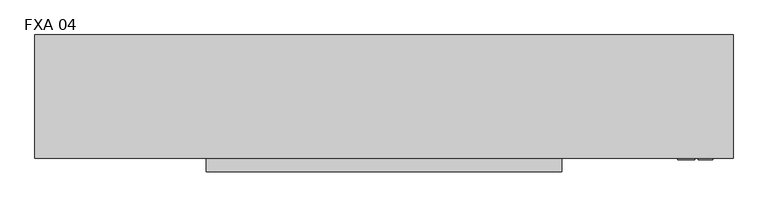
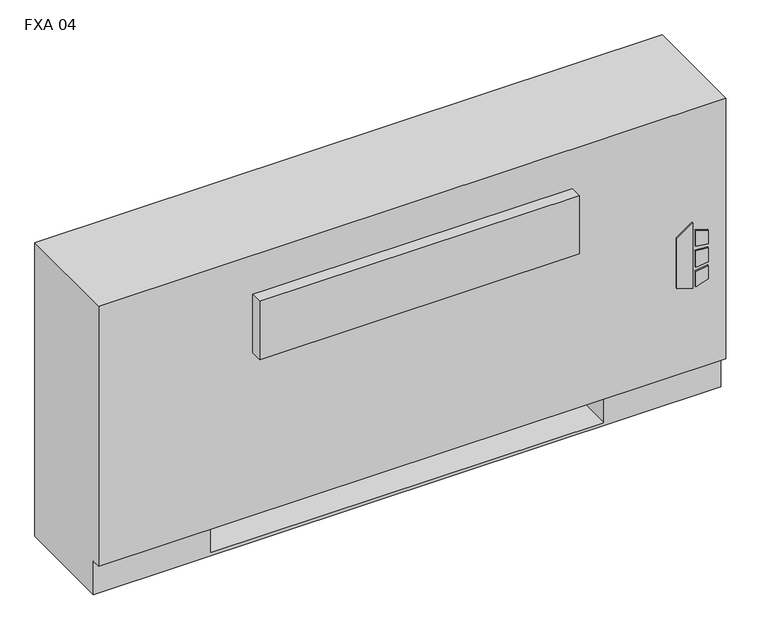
"""IFC4 building model written with IfcOpenShell, lengths in millimetres: proxy geometry, Vertical_Fan_Coil_Unit_-_FXA_-_IEC_-_4-Pipe_FS-FR_RH_2022 : FXA 04."""

import ifcopenshell
import ifcopenshell.guid

model = None  # the IFC model being written
_history = None  # IfcOwnerHistory: only IFC2X3 demands one
_inside = {}  # id of a spatial element -> (the spatial element, [elements in it])
_under = {}  # id of a project, library or spatial element -> (it, [spatial elements below it])
_declared = {}  # id of a project -> (the project, [libraries it declares])
_typed = {}  # id of a type object -> (the type object, [elements of that type])
_made_of = {}  # id of a material, layer set ... -> (it, [elements and type objects made of it])


def new_model(schema):
    """Start an empty IFC model of exactly this schema.

    Asked for "IFC4X3", IfcOpenShell would pick the latest addendum, in which some entities
    have other attributes; the version numbers below select the first issue.
    IFC2X3 requires an IfcOwnerHistory on every rooted entity: one is made here for all.
    """
    global model, _history
    if schema == "IFC4X3":
        model = ifcopenshell.file(schema_version=(4, 3, 0, 0))
    else:
        model = ifcopenshell.file(schema=schema)
    _inside.clear()
    _under.clear()
    _declared.clear()
    _typed.clear()
    _made_of.clear()
    _history = None
    if model.schema == "IFC2X3":
        org = make("IfcOrganization", Name="unknown")
        user = make(
            "IfcPersonAndOrganization",
            ThePerson=make("IfcPerson", FamilyName="unknown"),
            TheOrganization=org,
        )
        app = make(
            "IfcApplication",
            ApplicationDeveloper=org,
            Version="unknown",
            ApplicationFullName="unknown",
            ApplicationIdentifier="unknown",
        )
        _history = make(
            "IfcOwnerHistory",
            OwningUser=user,
            OwningApplication=app,
            ChangeAction="ADDED",
            CreationDate=0,
        )
    return model


def make(cls, **values):
    """One entity of the class cls with the attributes given. An attribute that is None is left unset."""
    return model.create_entity(
        cls, **{name: value for name, value in values.items() if value is not None}
    )


def rooted(cls, **values):
    """An entity with a GlobalId (a new one), such as an element, a storey or a relation."""
    return make(cls, GlobalId=ifcopenshell.guid.new(), OwnerHistory=_history, **values)


def si_unit(unit_type, name, prefix=None):
    """IfcSIUnit, for example si_unit("LENGTHUNIT", "METRE", prefix="MILLI")."""
    return make("IfcSIUnit", UnitType=unit_type, Prefix=prefix, Name=name)


def assignment(units):
    """IfcUnitAssignment: the units of a project."""
    return None if units is None else make("IfcUnitAssignment", Units=units)


def point(xyz):
    """IfcCartesianPoint."""
    return None if xyz is None else make("IfcCartesianPoint", Coordinates=xyz)


def direction(xyz):
    """IfcDirection."""
    return None if xyz is None else make("IfcDirection", DirectionRatios=xyz)


def frame(location, z_axis=None, x_axis=None):
    """IfcAxis2Placement3D, a coordinate frame: its origin and axes. An axis left out is left unset."""
    return make(
        "IfcAxis2Placement3D",
        Location=point(location),
        Axis=direction(z_axis),
        RefDirection=direction(x_axis),
    )


def frame_2d(location, x_axis=None):
    """IfcAxis2Placement2D, a coordinate frame in the plane: its origin and x axis."""
    return make(
        "IfcAxis2Placement2D", Location=point(location), RefDirection=direction(x_axis)
    )


def origin():
    """The frame at (0, 0, 0) with its axes left unset."""
    return frame((0.0, 0.0, 0.0))


def place(relative_to, where):
    """IfcLocalPlacement: puts the frame where relative to a parent placement (None: the world)."""
    return make(
        "IfcLocalPlacement", PlacementRelTo=relative_to, RelativePlacement=where
    )


def context(
    kind, dimensions, precision=None, world=None, true_north=None, identifier=None
):
    """IfcGeometricRepresentationContext, for example the 3D "Model" context."""
    return make(
        "IfcGeometricRepresentationContext",
        ContextIdentifier=identifier,
        ContextType=kind,
        CoordinateSpaceDimension=dimensions,
        Precision=precision,
        WorldCoordinateSystem=world,
        TrueNorth=true_north,
    )


def project(units=None, contexts=None):
    """IfcProject with its units and contexts."""
    return rooted(
        "IfcProject",
        Name="project",
        RepresentationContexts=contexts,
        UnitsInContext=assignment(units),
    )


def spatial(cls, under=None, at=None, **own):
    """A site, building, storey or space (cls), placed at a placement, below another one or the project."""
    s = rooted(cls, ObjectPlacement=at, **own)
    if under is not None:
        _under.setdefault(under.id(), (under, []))[1].append(s)
    return s


def polyline(points):
    """IfcPolyline through the points."""
    return make("IfcPolyline", Points=[point(p) for p in points])


def circle_curve(where, radius):
    """IfcCircle in the frame where."""
    return make("IfcCircle", Position=where, Radius=radius)


def trimmed(basis, trim1, trim2, sense, master):
    """IfcTrimmedCurve: the piece of a basis curve between two trims."""
    return make(
        "IfcTrimmedCurve",
        BasisCurve=basis,
        Trim1=trim1,
        Trim2=trim2,
        SenseAgreement=sense,
        MasterRepresentation=master,
    )


def segment(curve, same_sense, transition):
    """IfcCompositeCurveSegment."""
    return make(
        "IfcCompositeCurveSegment",
        Transition=transition,
        SameSense=same_sense,
        ParentCurve=curve,
    )


def composite_curve(segments, self_intersect=None):
    """IfcCompositeCurve: segments joined end to end."""
    return make("IfcCompositeCurve", Segments=segments, SelfIntersect=self_intersect)


def outline(outer, holes=None, kind="AREA"):
    """IfcArbitraryClosedProfileDef: a profile drawn as a closed curve; with holes, ...WithVoids."""
    if holes is None:
        return make("IfcArbitraryClosedProfileDef", ProfileType=kind, OuterCurve=outer)
    return make(
        "IfcArbitraryProfileDefWithVoids",
        ProfileType=kind,
        OuterCurve=outer,
        InnerCurves=holes,
    )


def extrude(swept, where, along, depth):
    """IfcExtrudedAreaSolid: the profile swept, set in the frame where, extruded along a direction by depth."""
    return make(
        "IfcExtrudedAreaSolid",
        SweptArea=swept,
        Position=where,
        ExtrudedDirection=direction(along),
        Depth=depth,
    )


def shape(context_of_items, identifier, shape_type, items):
    """IfcShapeRepresentation: the items that make up one representation, for example the "Body"."""
    return make(
        "IfcShapeRepresentation",
        ContextOfItems=context_of_items,
        RepresentationIdentifier=identifier,
        RepresentationType=shape_type,
        Items=items,
    )


def source(mapping_origin, context_of_items, identifier, shape_type, items):
    """IfcRepresentationMap: a shape defined once, which mapped items show again and again."""
    return make(
        "IfcRepresentationMap",
        MappingOrigin=mapping_origin,
        MappedRepresentation=shape(context_of_items, identifier, shape_type, items),
    )


def transform(
    local_origin,
    x_axis=None,
    y_axis=None,
    z_axis=None,
    scale=None,
    scale2=None,
    scale3=None,
    uniform=True,
):
    """IfcCartesianTransformationOperator3D, or its non-uniform kind. x_axis, y_axis, z_axis: its Axis1, 2, 3."""
    if uniform:
        return make(
            "IfcCartesianTransformationOperator3D",
            Axis1=direction(x_axis),
            Axis2=direction(y_axis),
            LocalOrigin=point(local_origin),
            Scale=scale,
            Axis3=direction(z_axis),
        )
    return make(
        "IfcCartesianTransformationOperator3DnonUniform",
        Axis1=direction(x_axis),
        Axis2=direction(y_axis),
        LocalOrigin=point(local_origin),
        Scale=scale,
        Axis3=direction(z_axis),
        Scale2=scale2,
        Scale3=scale3,
    )


def mapped(mapping_source, mapping_target):
    """IfcMappedItem: shows the shape of a source again, moved by a transform."""
    return make(
        "IfcMappedItem", MappingSource=mapping_source, MappingTarget=mapping_target
    )


def made_of(thing, what):
    """Note that an element or type object is made of a material, layer set ...; save() writes the relation."""
    if what is not None:
        _made_of.setdefault(what.id(), (what, []))[1].append(thing)
    return thing


def element(
    cls,
    number,
    at=None,
    inside=None,
    cuts=None,
    type_object=None,
    material=None,
    context=None,
    identifier="Body",
    shape_type=None,
    held_by="IfcProductDefinitionShape",
    body=None,
    shapes=None,
    **own,
):
    """One element of the class cls, such as IfcWall. Its Tag is "e" and its number.

    at: its placement. inside: the storey or other place that contains it. cuts: it is an
    opening in that element (IfcRelVoidsElement). A single representation is given by context,
    identifier, shape_type and body (its items); several are given by shapes. held_by: the class
    of the entity that holds the representations. save() writes the other relations.
    """
    e = rooted(cls, Tag="e%d" % number, ObjectPlacement=at, **own)
    if body is not None:
        shapes = [shape(context, identifier, shape_type, body)]
    if shapes is not None:
        e.Representation = make(held_by, Representations=shapes)
    if inside is not None:
        _inside.setdefault(inside.id(), (inside, []))[1].append(e)
    if cuts is not None:
        rooted(
            "IfcRelVoidsElement", RelatingBuildingElement=cuts, RelatedOpeningElement=e
        )
    if type_object is not None:
        _typed.setdefault(type_object.id(), (type_object, []))[1].append(e)
    return made_of(e, material)


def aggregate(whole, parts):
    """IfcRelAggregates: a whole, such as a stair, and the parts it consists of."""
    return rooted("IfcRelAggregates", RelatingObject=whole, RelatedObjects=parts)


def save(model, path):
    """Write the relations noted so far, then the file.

    IfcRelAggregates (storeys below a building ...), IfcRelContainedInSpatialStructure (elements
    in a storey), IfcRelDefinesByType, IfcRelAssociatesMaterial and IfcRelDeclares: one each for
    every whole, place, type object, material and project.
    """
    for whole, parts in _under.values():
        aggregate(whole, parts)
    for where, things in _inside.values():
        rooted(
            "IfcRelContainedInSpatialStructure",
            RelatedElements=things,
            RelatingStructure=where,
        )
    for kind, things in _typed.values():
        rooted("IfcRelDefinesByType", RelatedObjects=things, RelatingType=kind)
    for what, things in _made_of.values():
        rooted("IfcRelAssociatesMaterial", RelatedObjects=things, RelatingMaterial=what)
    for by, libraries in _declared.values():
        rooted("IfcRelDeclares", RelatingContext=by, RelatedDefinitions=libraries)
    model.write(path)


def plane_surface(at):
    """IfcPlane: the flat surface through the origin of the frame at, square to its z axis."""
    return make("IfcPlane", Position=at)


def revolved_surface(curve, axis_point, axis_direction):
    """IfcSurfaceOfRevolution: the curve turned about the line through axis_point along axis_direction."""
    return make(
        "IfcSurfaceOfRevolution",
        SweptCurve=make("IfcArbitraryOpenProfileDef", ProfileType="CURVE", Curve=curve),
        AxisPosition=make("IfcAxis1Placement", Location=point(axis_point), Axis=direction(axis_direction)),
    )


def advanced_brep(points, edges, surfaces, faces):
    """IfcAdvancedBrep: a solid bounded by faces that lie on surfaces and meet in shared edges.

    An edge is (start, end): straight between two places in points (the first is 0);
    or (start, end, curve); or (start, end, curve, False) where it runs against its curve.
    A face is (place in surfaces, loops), or (place, loops, False) where it looks against
    its surface's normal. A loop lists edges by number (the first is 1), with a minus sign
    where the edge is run from its end to its start. The first loop is the outer one.
    """
    corners = [point(p) for p in points]
    vertices = [make("IfcVertexPoint", VertexGeometry=c) for c in corners]
    made = []
    for start, end, *more in edges:
        made.append(
            make(
                "IfcEdgeCurve",
                EdgeStart=vertices[start],
                EdgeEnd=vertices[end],
                EdgeGeometry=more[0] if more else make("IfcPolyline", Points=[corners[start], corners[end]]),
                SameSense=more[1] if len(more) > 1 else True,
            )
        )
    hull = []
    for where, loops, *sense in faces:
        bounds = []
        for j, loop in enumerate(loops):
            ring = [make("IfcOrientedEdge", EdgeElement=made[abs(k) - 1], Orientation=k > 0) for k in loop]
            bounds.append(
                make(
                    "IfcFaceOuterBound" if j == 0 else "IfcFaceBound",
                    Bound=make("IfcEdgeLoop", EdgeList=ring),
                    Orientation=True,
                )
            )
        hull.append(make("IfcAdvancedFace", Bounds=bounds, FaceSurface=surfaces[where], SameSense=sense[0] if sense else True))
    return make("IfcAdvancedBrep", Outer=make("IfcClosedShell", CfsFaces=hull))


def fxa_04_99963d95(model_context):
    return source(origin(), model_context, "Body", "SolidModel", [
        extrude(outline(polyline([(263.9480703, 696.9868862), (254.0, 729.1602728), (396.1709244, 729.1602728), (373.1489183, 696.9868862), (263.9480703, 696.9868862)])), frame((0.0, 12.7, 0.0), z_axis=(0.0, 1.0, 0.0), x_axis=(0.0, 0.0, 1.0)), (0.0, 0.0, 1.0), 3.175),
        extrude(outline(polyline([(342.9473557, 735.9186058), (339.7449632, 762.0), (368.9738042, 762.0), (377.0382193, 735.9186058), (342.9473557, 735.9186058)])), frame((0.0, 12.7, 0.0), z_axis=(0.0, 1.0, 0.0), x_axis=(0.0, 0.0, 1.0)), (0.0, 0.0, 1.0), 3.175),
        extrude(outline(polyline([(291.0838288, 762.0), (287.4183279, 735.9186058), (254.0, 735.9186058), (262.6342372, 762.0), (291.0838288, 762.0)])), frame((0.0, 12.7, 0.0), z_axis=(0.0, 1.0, 0.0), x_axis=(0.0, 0.0, 1.0)), (0.0, 0.0, 1.0), 3.175),
        extrude(outline(polyline([(330.3989903, 762.0), (332.6808166, 735.9186058), (296.7432681, 735.9186058), (299.4845331, 762.0), (330.3989903, 762.0)])), frame((0.0, 12.7, 0.0), z_axis=(0.0, 1.0, 0.0), x_axis=(0.0, 0.0, 1.0)), (0.0, 0.0, 1.0), 3.175),
        extrude(outline(polyline([(-374.65, 81.534), (-374.65, 223.266), (-254.0, 223.266), (-254.0, 81.534), (-374.65, 81.534)])), frame((0.0, 0.0, 327.025), z_axis=(0.0, 0.0, 1.0), x_axis=(1.0, 0.0, 0.0)), (0.0, 0.0, 1.0), 260.35),
        extrude(outline(composite_curve([segment(trimmed(circle_curve(frame_2d((622.3, 130.175)), 9.525), [point((612.775, 130.175))], [point((631.825, 130.175))], False, "CARTESIAN"), True, "CONTINUOUS"), segment(trimmed(circle_curve(frame_2d((622.3, 130.175)), 9.525), [point((631.825, 130.175))], [point((612.775, 130.175))], False, "CARTESIAN"), True, "CONTINUOUS")], self_intersect=False)), frame((0.0, 0.0, 101.6), z_axis=(0.0, 0.0, 1.0), x_axis=(1.0, 0.0, 0.0)), (0.0, 0.0, 1.0), 25.4),
        extrude(outline(polyline([(723.9, 196.85), (723.9, 63.5), (558.8, 63.5), (558.8, 196.85), (723.9, 196.85)])), frame((0.0, 0.0, 127.0), z_axis=(0.0, 0.0, 1.0), x_axis=(1.0, 0.0, 0.0)), (0.0, 0.0, 1.0), 50.8),
        extrude(outline(polyline([(482.6, -9.525), (-177.8, -9.525), (-177.8, 15.875), (482.6, 15.875), (482.6, -9.525)])), frame((0.0, 0.0, 428.625), z_axis=(0.0, 0.0, 1.0), x_axis=(1.0, 0.0, 0.0)), (0.0, 0.0, 1.0), 127.0),
        extrude(outline(composite_curve([segment(trimmed(circle_curve(frame_2d((117.475, 472.44)), 7.9375), [point((117.475, 480.3775))], [point((117.475, 464.5025))], False, "CARTESIAN"), True, "CONTINUOUS"), segment(trimmed(circle_curve(frame_2d((117.475, 472.44)), 7.9375), [point((117.475, 464.5025))], [point((117.475, 480.3775))], False, "CARTESIAN"), True, "CONTINUOUS")], self_intersect=False)), frame((558.8, 0.0, 0.0), z_axis=(1.0, 0.0, 0.0), x_axis=(0.0, 1.0, 0.0)), (0.0, 0.0, 1.0), 50.8),
        extrude(outline(composite_curve([segment(trimmed(circle_curve(frame_2d((164.0586, 445.897)), 7.9375), [point((164.0586, 453.8345))], [point((164.0586, 437.9595))], False, "CARTESIAN"), True, "CONTINUOUS"), segment(trimmed(circle_curve(frame_2d((164.0586, 445.897)), 7.9375), [point((164.0586, 437.9595))], [point((164.0586, 453.8345))], False, "CARTESIAN"), True, "CONTINUOUS")], self_intersect=False)), frame((558.8, 0.0, 0.0), z_axis=(1.0, 0.0, 0.0), x_axis=(0.0, 1.0, 0.0)), (0.0, 0.0, 1.0), 50.8),
        extrude(outline(composite_curve([segment(trimmed(circle_curve(frame_2d((130.175, 554.99)), 7.9502), [point((130.175, 562.9402))], [point((130.175, 547.0398))], False, "CARTESIAN"), True, "CONTINUOUS"), segment(trimmed(circle_curve(frame_2d((130.175, 554.99)), 7.9502), [point((130.175, 547.0398))], [point((130.175, 562.9402))], False, "CARTESIAN"), True, "CONTINUOUS")], self_intersect=False)), frame((558.8, 0.0, 0.0), z_axis=(1.0, 0.0, 0.0), x_axis=(0.0, 1.0, 0.0)), (0.0, 0.0, 1.0), 50.8),
        extrude(outline(composite_curve([segment(trimmed(circle_curve(frame_2d((53.975, 416.56)), 7.9502), [point((53.975, 424.5102))], [point((53.975, 408.6098))], False, "CARTESIAN"), True, "CONTINUOUS"), segment(trimmed(circle_curve(frame_2d((53.975, 416.56)), 7.9502), [point((53.975, 408.6098))], [point((53.975, 424.5102))], False, "CARTESIAN"), True, "CONTINUOUS")], self_intersect=False)), frame((558.8, 0.0, 0.0), z_axis=(1.0, 0.0, 0.0), x_axis=(0.0, 1.0, 0.0)), (0.0, 0.0, 1.0), 50.8),
        advanced_brep(
        [(800.1, 244.475, 641.35), (-495.3, 244.475, 641.35), (-495.3, 15.875, 641.35), (800.1, 15.875, 641.35), (-495.3, 244.475, 0.0), (800.1, 244.475, 0.0), (800.1, 34.925, 0.0), (-495.3, 34.925, 0.0), (558.8, 244.475, 73.025), (787.4, 244.475, 73.025), (787.4, 244.475, 628.65), (558.8, 244.475, 628.65), (558.8, 244.475, 414.8650565), (587.375, 244.475, 414.8650565), (587.375, 244.475, 385.2349435), (558.8, 244.475, 385.2349435), (558.8, 244.475, 287.3375), (587.375, 244.475, 287.3375), (587.375, 244.475, 258.7625), (558.8, 244.475, 258.7625), (558.8, 244.475, 141.2875), (587.375, 244.475, 141.2875), (587.375, 244.475, 112.7125), (558.8, 244.475, 112.7125), (-254.0, 244.475, 628.65), (-482.6, 244.475, 628.65), (-482.6, 244.475, 73.025), (-254.0, 244.475, 73.025), (-254.0, 244.475, 112.7125), (-282.575, 244.475, 112.7125), (-282.575, 244.475, 141.2875), (-254.0, 244.475, 141.2875), (-254.0, 244.475, 258.7625), (-282.575, 244.475, 258.7625), (-282.575, 244.475, 287.3375), (-254.0, 244.475, 287.3375), (-254.0, 244.475, 385.2349435), (-282.575, 244.475, 385.2349435), (-282.575, 244.475, 414.8650565), (-254.0, 244.475, 414.8650565), (577.0626, 244.475, 127.0), (565.9374, 244.475, 127.0), (577.0626, 244.475, 400.05), (565.9374, 244.475, 400.05), (577.0626, 244.475, 273.05), (565.9374, 244.475, 273.05), (-261.1374, 244.475, 127.0), (-272.2626, 244.475, 127.0), (-261.1374, 244.475, 273.05), (-272.2626, 244.475, 273.05), (-261.1374, 244.475, 400.05), (-272.2626, 244.475, 400.05), (-495.3, 34.925, 73.025), (-495.3, 15.875, 73.025), (800.1, 15.875, 73.025), (800.1, 34.925, 73.025), (-254.0, 34.925, 73.025), (-254.0, 219.075, 73.025), (558.8, 219.075, 73.025), (558.8, 34.925, 73.025), (558.8, 34.925, 6.35), (-254.0, 34.925, 6.35), (558.8, 41.275, 628.65), (787.4, 41.275, 628.65), (787.4, 41.275, 73.025), (558.8, 41.275, 73.025), (-254.0, 41.275, 628.65), (-254.0, 41.275, 73.025), (-482.6, 41.275, 73.025), (-482.6, 41.275, 628.65), (558.8, 219.075, 73.025), (558.8, 238.125, 112.7125), (558.8, 238.125, 141.2875), (558.8, 238.125, 258.7625), (558.8, 238.125, 287.3375), (558.8, 238.125, 385.2349435), (558.8, 238.125, 414.8650565), (-254.0, 219.075, 73.025), (-254.0, 238.125, 414.8650565), (-254.0, 238.125, 385.2349435), (-254.0, 238.125, 287.3375), (-254.0, 238.125, 258.7625), (-254.0, 238.125, 141.2875), (-254.0, 238.125, 112.7125), (-254.0, 219.075, 6.35), (558.8, 219.075, 6.35), (587.375, 238.125, 112.7125), (587.375, 238.125, 141.2875), (565.9374, 238.125, 127.0), (577.0626, 238.125, 127.0), (587.375, 238.125, 258.7625), (587.375, 238.125, 287.3375), (565.9374, 238.125, 273.05), (577.0626, 238.125, 273.05), (587.375, 238.125, 385.2349435), (587.375, 238.125, 414.8650565), (565.9374, 238.125, 400.05), (577.0626, 238.125, 400.05), (-282.575, 238.125, 141.2875), (-282.575, 238.125, 112.7125), (-272.2626, 238.125, 127.0), (-261.1374, 238.125, 127.0), (-282.575, 238.125, 287.3375), (-282.575, 238.125, 258.7625), (-272.2626, 238.125, 273.05), (-261.1374, 238.125, 273.05), (-282.575, 238.125, 414.8650565), (-282.575, 238.125, 385.2349435), (-272.2626, 238.125, 400.05), (-261.1374, 238.125, 400.05)],
        [
            (0, 1),
            (1, 2),
            (2, 3),
            (3, 0),
            (4, 5),
            (5, 6),
            (6, 7),
            (7, 4),
            (0, 5),
            (4, 1),
            (8, 9),
            (9, 10),
            (10, 11),
            (11, 12),
            (12, 13),
            (13, 14),
            (14, 15),
            (15, 16),
            (16, 17),
            (17, 18),
            (18, 19),
            (19, 20),
            (20, 21),
            (21, 22),
            (22, 23),
            (23, 8),
            (24, 25),
            (25, 26),
            (26, 27),
            (27, 28),
            (28, 29),
            (29, 30),
            (30, 31),
            (31, 32),
            (32, 33),
            (33, 34),
            (34, 35),
            (35, 36),
            (36, 37),
            (37, 38),
            (38, 39),
            (39, 24),
            (40, 41, circle_curve(frame((571.5, 244.475, 127.0), z_axis=(0.0, -1.0, 0.0), x_axis=(-1.0, 0.0, 0.0)), 5.5626)),
            (41, 40, circle_curve(frame((571.5, 244.475, 127.0), z_axis=(0.0, -1.0, 0.0), x_axis=(-1.0, 0.0, 0.0)), 5.5626)),
            (42, 43, circle_curve(frame((571.5, 244.475, 400.05), z_axis=(0.0, -1.0, 0.0), x_axis=(-1.0, 0.0, 0.0)), 5.5626)),
            (43, 42, circle_curve(frame((571.5, 244.475, 400.05), z_axis=(0.0, -1.0, 0.0), x_axis=(-1.0, 0.0, 0.0)), 5.5626)),
            (44, 45, circle_curve(frame((571.5, 244.475, 273.05), z_axis=(0.0, -1.0, 0.0), x_axis=(-1.0, 0.0, 0.0)), 5.5626)),
            (45, 44, circle_curve(frame((571.5, 244.475, 273.05), z_axis=(0.0, -1.0, 0.0), x_axis=(-1.0, 0.0, 0.0)), 5.5626)),
            (46, 47, circle_curve(frame((-266.7, 244.475, 127.0), z_axis=(0.0, -1.0, 0.0), x_axis=(-1.0, 0.0, 0.0)), 5.5626)),
            (47, 46, circle_curve(frame((-266.7, 244.475, 127.0), z_axis=(0.0, -1.0, 0.0), x_axis=(-1.0, 0.0, 0.0)), 5.5626)),
            (48, 49, circle_curve(frame((-266.7, 244.475, 273.05), z_axis=(0.0, -1.0, 0.0), x_axis=(-1.0, 0.0, 0.0)), 5.5626)),
            (49, 48, circle_curve(frame((-266.7, 244.475, 273.05), z_axis=(0.0, -1.0, 0.0), x_axis=(-1.0, 0.0, 0.0)), 5.5626)),
            (50, 51, circle_curve(frame((-266.7, 244.475, 400.05), z_axis=(0.0, -1.0, 0.0), x_axis=(-1.0, 0.0, 0.0)), 5.5626)),
            (51, 50, circle_curve(frame((-266.7, 244.475, 400.05), z_axis=(0.0, -1.0, 0.0), x_axis=(-1.0, 0.0, 0.0)), 5.5626)),
            (7, 52),
            (52, 53),
            (53, 2),
            (53, 54),
            (54, 3),
            (54, 55),
            (55, 6),
            (52, 56),
            (56, 57),
            (57, 58),
            (58, 59),
            (59, 55),
            (59, 60),
            (60, 61),
            (61, 56),
            (62, 63),
            (63, 64),
            (64, 65),
            (65, 62),
            (66, 67),
            (67, 68),
            (68, 69),
            (69, 66),
            (65, 70),
            (70, 8),
            (23, 71),
            (71, 72),
            (72, 20),
            (19, 73),
            (73, 74),
            (74, 16),
            (15, 75),
            (75, 76),
            (76, 12),
            (11, 62),
            (64, 9),
            (63, 10),
            (69, 25),
            (24, 66),
            (68, 26),
            (67, 77),
            (77, 27),
            (39, 78),
            (78, 79),
            (79, 36),
            (35, 80),
            (80, 81),
            (81, 32),
            (31, 82),
            (82, 83),
            (83, 28),
            (57, 84),
            (84, 85),
            (85, 58),
            (85, 60),
            (84, 61),
            (71, 86),
            (86, 87),
            (87, 72),
            (88, 89, circle_curve(frame((571.5, 238.125, 127.0), z_axis=(0.0, 1.0, 0.0), x_axis=(-1.0, 0.0, 0.0)), 5.5626)),
            (89, 88, circle_curve(frame((571.5, 238.125, 127.0), z_axis=(0.0, 1.0, 0.0), x_axis=(-1.0, 0.0, 0.0)), 5.5626)),
            (73, 90),
            (90, 91),
            (91, 74),
            (92, 93, circle_curve(frame((571.5, 238.125, 273.05), z_axis=(0.0, 1.0, 0.0), x_axis=(-1.0, 0.0, 0.0)), 5.5626)),
            (93, 92, circle_curve(frame((571.5, 238.125, 273.05), z_axis=(0.0, 1.0, 0.0), x_axis=(-1.0, 0.0, 0.0)), 5.5626)),
            (75, 94),
            (94, 95),
            (95, 76),
            (96, 97, circle_curve(frame((571.5, 238.125, 400.05), z_axis=(0.0, 1.0, 0.0), x_axis=(-1.0, 0.0, 0.0)), 5.5626)),
            (97, 96, circle_curve(frame((571.5, 238.125, 400.05), z_axis=(0.0, 1.0, 0.0), x_axis=(-1.0, 0.0, 0.0)), 5.5626)),
            (98, 99),
            (99, 83),
            (82, 98),
            (100, 101, circle_curve(frame((-266.7, 238.125, 127.0), z_axis=(0.0, 1.0, 0.0), x_axis=(-1.0, 0.0, 0.0)), 5.5626)),
            (101, 100, circle_curve(frame((-266.7, 238.125, 127.0), z_axis=(0.0, 1.0, 0.0), x_axis=(-1.0, 0.0, 0.0)), 5.5626)),
            (102, 103),
            (103, 81),
            (80, 102),
            (104, 105, circle_curve(frame((-266.7, 238.125, 273.05), z_axis=(0.0, 1.0, 0.0), x_axis=(-1.0, 0.0, 0.0)), 5.5626)),
            (105, 104, circle_curve(frame((-266.7, 238.125, 273.05), z_axis=(0.0, 1.0, 0.0), x_axis=(-1.0, 0.0, 0.0)), 5.5626)),
            (106, 107),
            (107, 79),
            (78, 106),
            (108, 109, circle_curve(frame((-266.7, 238.125, 400.05), z_axis=(0.0, 1.0, 0.0), x_axis=(-1.0, 0.0, 0.0)), 5.5626)),
            (109, 108, circle_curve(frame((-266.7, 238.125, 400.05), z_axis=(0.0, 1.0, 0.0), x_axis=(-1.0, 0.0, 0.0)), 5.5626)),
            (87, 21),
            (86, 22),
            (91, 17),
            (90, 18),
            (95, 13),
            (94, 14),
            (30, 98),
            (99, 29),
            (34, 102),
            (103, 33),
            (38, 106),
            (107, 37),
            (88, 41),
            (40, 89),
            (96, 43),
            (42, 97),
            (92, 45),
            (44, 93),
            (100, 47),
            (46, 101),
            (104, 49),
            (48, 105),
            (108, 51),
            (50, 109),
        ],
        [
            plane_surface(frame((-495.3, 244.475, 641.35), z_axis=(0.0, 0.0, 1.0), x_axis=(-1.0, 0.0, 0.0))),
            plane_surface(frame((-495.3, 244.475, 0.0), z_axis=(0.0, 0.0, -1.0), x_axis=(1.0, 0.0, 0.0))),
            plane_surface(frame((800.1, 244.475, 641.35), z_axis=(0.0, 1.0, 0.0), x_axis=(0.0, 0.0, -1.0))),
            plane_surface(frame((-495.3, 244.475, 641.35), z_axis=(-1.0, 0.0, 0.0), x_axis=(0.0, 0.0, -1.0))),
            plane_surface(frame((-495.3, 15.875, 641.35), z_axis=(0.0, -1.0, 0.0), x_axis=(0.0, 0.0, -1.0))),
            plane_surface(frame((800.1, 15.875, 641.35), z_axis=(1.0, 0.0, 0.0), x_axis=(0.0, 0.0, -1.0))),
            plane_surface(frame((-495.3, 15.875, 73.025), z_axis=(0.0, 0.0, -1.0), x_axis=(1.0, 0.0, 0.0))),
            plane_surface(frame((-495.3, 34.925, 73.025), z_axis=(0.0, -1.0, 0.0), x_axis=(1.0, 0.0, 0.0))),
            plane_surface(frame((558.8, 41.275, 628.65), z_axis=(0.0, 1.0, 0.0), x_axis=(0.0, 0.0, -1.0))),
            plane_surface(frame((558.8, 41.275, 628.65), z_axis=(1.0, 0.0, 0.0), x_axis=(0.0, 1.0, 0.0))),
            plane_surface(frame((558.8, 41.275, 73.025), z_axis=(0.0, 0.0, 1.0), x_axis=(0.0, 1.0, 0.0))),
            plane_surface(frame((787.4, 41.275, 73.025), z_axis=(-1.0, 0.0, 0.0), x_axis=(0.0, 1.0, 0.0))),
            plane_surface(frame((787.4, 41.275, 628.65), z_axis=(0.0, 0.0, -1.0), x_axis=(0.0, 1.0, 0.0))),
            plane_surface(frame((-254.0, 41.275, 628.65), z_axis=(0.0, 0.0, -1.0), x_axis=(0.0, 1.0, 0.0))),
            plane_surface(frame((-482.6, 41.275, 628.65), z_axis=(1.0, 0.0, 0.0), x_axis=(0.0, 1.0, 0.0))),
            plane_surface(frame((-482.6, 41.275, 73.025), z_axis=(0.0, 0.0, 1.0), x_axis=(0.0, 1.0, 0.0))),
            plane_surface(frame((-254.0, 41.275, 73.025), z_axis=(-1.0, 0.0, 0.0), x_axis=(0.0, 1.0, 0.0))),
            plane_surface(frame((558.8, 219.075, 73.025), z_axis=(0.0, -1.0, 0.0), x_axis=(0.0, 0.0, -1.0))),
            plane_surface(frame((558.8, 219.075, 73.025), z_axis=(-1.0, 0.0, 0.0), x_axis=(0.0, -1.0, 0.0))),
            plane_surface(frame((558.8, 219.075, 6.35), z_axis=(0.0, 0.0, 1.0), x_axis=(0.0, -1.0, 0.0))),
            plane_surface(frame((-254.0, 219.075, 6.35), z_axis=(1.0, 0.0, 0.0), x_axis=(0.0, -1.0, 0.0))),
            plane_surface(frame((587.375, 238.125, 141.2875), z_axis=(0.0, -1.0, 0.0), x_axis=(-1.0, 0.0, 0.0))),
            plane_surface(frame((558.8, 244.475, 141.2875), z_axis=(0.0, 0.0, 1.0), x_axis=(0.0, -1.0, 0.0))),
            plane_surface(frame((587.375, 244.475, 141.2875), z_axis=(1.0, 0.0, 0.0), x_axis=(0.0, -1.0, 0.0))),
            plane_surface(frame((587.375, 244.475, 112.7125), z_axis=(0.0, 0.0, -1.0), x_axis=(0.0, -1.0, 0.0))),
            plane_surface(frame((558.8, 244.475, 287.3375), z_axis=(0.0, 0.0, 1.0), x_axis=(0.0, -1.0, 0.0))),
            plane_surface(frame((587.375, 244.475, 287.3375), z_axis=(1.0, 0.0, 0.0), x_axis=(0.0, -1.0, 0.0))),
            plane_surface(frame((587.375, 244.475, 258.7625), z_axis=(0.0, 0.0, -1.0), x_axis=(0.0, -1.0, 0.0))),
            plane_surface(frame((558.8, 244.475, 414.8650565), z_axis=(0.0, 0.0, 1.0), x_axis=(0.0, -1.0, 0.0))),
            plane_surface(frame((587.375, 244.475, 414.8650565), z_axis=(1.0, 0.0, 0.0), x_axis=(0.0, -1.0, 0.0))),
            plane_surface(frame((587.375, 244.475, 385.2349435), z_axis=(0.0, 0.0, -1.0), x_axis=(0.0, -1.0, 0.0))),
            plane_surface(frame((-282.575, 244.475, 141.2875), z_axis=(0.0, 0.0, 1.0), x_axis=(0.0, -1.0, 0.0))),
            plane_surface(frame((-254.0, 244.475, 112.7125), z_axis=(0.0, 0.0, -1.0), x_axis=(0.0, -1.0, 0.0))),
            plane_surface(frame((-282.575, 244.475, 112.7125), z_axis=(-1.0, 0.0, 0.0), x_axis=(0.0, -1.0, 0.0))),
            plane_surface(frame((-282.575, 244.475, 287.3375), z_axis=(0.0, 0.0, 1.0), x_axis=(0.0, -1.0, 0.0))),
            plane_surface(frame((-254.0, 244.475, 258.7625), z_axis=(0.0, 0.0, -1.0), x_axis=(0.0, -1.0, 0.0))),
            plane_surface(frame((-282.575, 244.475, 258.7625), z_axis=(-1.0, 0.0, 0.0), x_axis=(0.0, -1.0, 0.0))),
            plane_surface(frame((-282.575, 244.475, 414.8650565), z_axis=(0.0, 0.0, 1.0), x_axis=(0.0, -1.0, 0.0))),
            plane_surface(frame((-254.0, 244.475, 385.2349435), z_axis=(0.0, 0.0, -1.0), x_axis=(0.0, -1.0, 0.0))),
            plane_surface(frame((-282.575, 244.475, 385.2349435), z_axis=(-1.0, 0.0, 0.0), x_axis=(0.0, -1.0, 0.0))),
            revolved_surface(polyline([(565.9374, 238.125, 127.0), (565.9374, 244.475, 127.0)]), (571.5, 244.475, 127.0), (0.0, -1.0, 0.0)),
            revolved_surface(polyline([(565.9374, 238.125, 400.05), (565.9374, 244.475, 400.05)]), (571.5, 244.475, 400.05), (0.0, -1.0, 0.0)),
            revolved_surface(polyline([(565.9374, 238.125, 273.05), (565.9374, 244.475, 273.05)]), (571.5, 244.475, 273.05), (0.0, -1.0, 0.0)),
            revolved_surface(polyline([(-272.26259999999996, 238.125, 127.0), (-272.26259999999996, 244.475, 127.0)]), (-266.7, 244.475, 127.0), (0.0, -1.0, 0.0)),
            revolved_surface(polyline([(-272.26259999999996, 238.125, 273.05), (-272.26259999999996, 244.475, 273.05)]), (-266.7, 244.475, 273.05), (0.0, -1.0, 0.0)),
            revolved_surface(polyline([(-272.26259999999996, 238.125, 400.05), (-272.26259999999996, 244.475, 400.05)]), (-266.7, 244.475, 400.05), (0.0, -1.0, 0.0)),
        ],
        [
            (0, [[1, 2, 3, 4]]),
            (1, [[5, 6, 7, 8]]),
            (2, [[-1, 9, -5, 10], [11, 12, 13, 14, 15, 16, 17, 18, 19, 20, 21, 22, 23, 24, 25, 26], [27, 28, 29, 30, 31, 32, 33, 34, 35, 36, 37, 38, 39, 40, 41, 42], [43, 44], [45, 46], [47, 48], [49, 50], [51, 52], [53, 54]]),
            (3, [[-2, -10, -8, 55, 56, 57]]),
            (4, [[-3, -57, 58, 59]]),
            (5, [[-4, -59, 60, 61, -6, -9]]),
            (6, [[-56, 62, 63, 64, 65, 66, -60, -58]]),
            (7, [[-7, -61, -66, 67, 68, 69, -62, -55]]),
            (8, [[70, 71, 72, 73]]),
            (8, [[74, 75, 76, 77]]),
            (9, [[-73, 78, 79, -26, 80, 81, 82, -22, 83, 84, 85, -18, 86, 87, 88, -14, 89]]),
            (10, [[-72, 90, -11, -79, -78]]),
            (11, [[-71, 91, -12, -90]]),
            (12, [[-70, -89, -13, -91]]),
            (13, [[-77, 92, -27, 93]]),
            (14, [[-76, 94, -28, -92]]),
            (15, [[-75, 95, 96, -29, -94]]),
            (16, [[-74, -93, -42, 97, 98, 99, -38, 100, 101, 102, -34, 103, 104, 105, -30, -96, -95]]),
            (17, [[-64, 106, 107, 108]]),
            (18, [[-108, 109, -67, -65]]),
            (19, [[-107, 110, -68, -109]]),
            (20, [[-106, -63, -69, -110]]),
            (21, [[111, 112, 113, -81], [114, 115]]),
            (21, [[116, 117, 118, -84], [119, 120]]),
            (21, [[121, 122, 123, -87], [124, 125]]),
            (21, [[126, 127, -104, 128], [129, 130]]),
            (21, [[131, 132, -101, 133], [134, 135]]),
            (21, [[136, 137, -98, 138], [139, 140]]),
            (22, [[-113, 141, -23, -82]]),
            (23, [[-112, 142, -24, -141]]),
            (24, [[-111, -80, -25, -142]]),
            (25, [[-118, 143, -19, -85]]),
            (26, [[-117, 144, -20, -143]]),
            (27, [[-116, -83, -21, -144]]),
            (28, [[-123, 145, -15, -88]]),
            (29, [[-122, 146, -16, -145]]),
            (30, [[-121, -86, -17, -146]]),
            (31, [[-128, -103, -33, 147]]),
            (32, [[-127, 148, -31, -105]]),
            (33, [[-126, -147, -32, -148]]),
            (34, [[-133, -100, -37, 149]]),
            (35, [[-132, 150, -35, -102]]),
            (36, [[-131, -149, -36, -150]]),
            (37, [[-138, -97, -41, 151]]),
            (38, [[-137, 152, -39, -99]]),
            (39, [[-136, -151, -40, -152]]),
            (40, [[153, -43, 154, -114]]),
            (40, [[-153, -115, -154, -44]]),
            (41, [[155, -45, 156, -124]]),
            (41, [[-155, -125, -156, -46]]),
            (42, [[157, -47, 158, -119]]),
            (42, [[-157, -120, -158, -48]]),
            (43, [[159, -49, 160, -129]]),
            (43, [[-159, -130, -160, -50]]),
            (44, [[161, -51, 162, -134]]),
            (44, [[-161, -135, -162, -52]]),
            (45, [[163, -53, 164, -139]]),
            (45, [[-163, -140, -164, -54]]),
        ],
    ),
    ])


if __name__ == "__main__":
    model = new_model("IFC4")
    model_context = context("Model", 3, world=origin())
    ifc_project = project(units=[si_unit("LENGTHUNIT", "METRE", prefix="MILLI")], contexts=[model_context])
    site = spatial("IfcSite", under=ifc_project)
    building = spatial("IfcBuilding", under=site)
    placement = place(None, origin())
    fxa_04_shape = fxa_04_99963d95(model_context)
    element("IfcBuildingElementProxy", 1, Name="Vertical_Fan_Coil_Unit_-_FXA_-_IEC_-_4-Pipe_FS-FR_RH_2022 : FXA 04", ObjectType="Vertical_Fan_Coil_Unit_-_FXA_-_IEC_-_4-Pipe_FS-FR_RH_2022 : FXA 04", at=placement, inside=building, context=model_context, shape_type="MappedRepresentation", body=[
        mapped(fxa_04_shape, transform((0.0, 0.0, 0.0), x_axis=(1.0, 0.0, 0.0), y_axis=(0.0, 1.0, 0.0), z_axis=(0.0, 0.0, 1.0))),
    ])
    save(model, "model.ifc")
